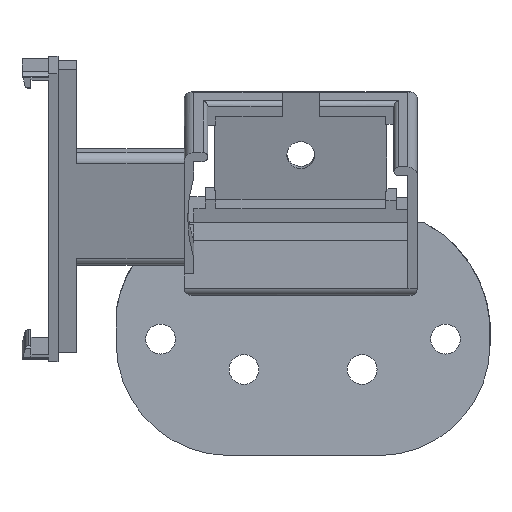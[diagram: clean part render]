
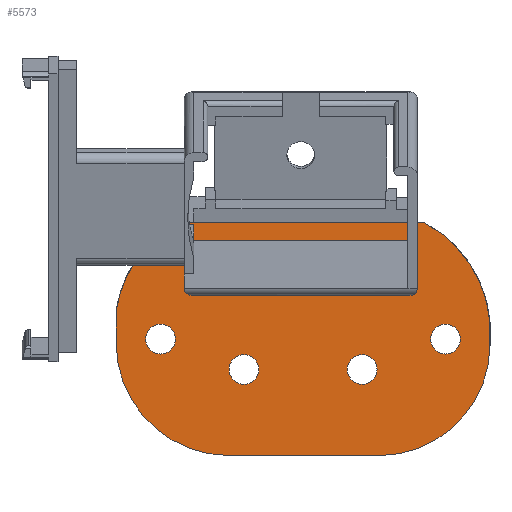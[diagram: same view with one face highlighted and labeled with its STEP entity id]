
A CAD part, front view. The second image highlights one B-rep face of the part: STEP entity #5573.
In plain terms, the highlighted planar face has unit normal (0, -1, 0).
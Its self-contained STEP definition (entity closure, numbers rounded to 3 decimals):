
#4642=CARTESIAN_POINT('',(-49.487,11.512,16.176));
#4643=DIRECTION('',(0.,1.,0.));
#4644=DIRECTION('',(0.,0.,1.));
#4645=AXIS2_PLACEMENT_3D('',#4642,#4643,#4644);
#4646=ELLIPSE('',#4645,2.071,2.);
#4647=CARTESIAN_POINT('',(-47.487,11.512,16.176));
#4648=VERTEX_POINT('',#4647);
#4649=CARTESIAN_POINT('',(-49.487,11.512,14.105));
#4650=VERTEX_POINT('',#4649);
#4651=EDGE_CURVE('',#4648,#4650,#4646,.T.);
#4683=CARTESIAN_POINT('',(-47.487,11.512,-30.));
#4684=DIRECTION('',(0.,0.,1.));
#4685=VECTOR('',#4684,1.);
#4686=LINE('',#4683,#4685);
#4687=CARTESIAN_POINT('',(-47.487,11.512,20.));
#4688=VERTEX_POINT('',#4687);
#4689=EDGE_CURVE('',#4648,#4688,#4686,.T.);
#4725=CARTESIAN_POINT('',(-112.164,11.512,20.));
#4726=DIRECTION('',(-1.,0.,0.));
#4727=VECTOR('',#4726,1.);
#4728=LINE('',#4725,#4727);
#4729=CARTESIAN_POINT('',(-45.864,11.512,20.));
#4730=VERTEX_POINT('',#4729);
#4731=EDGE_CURVE('',#4730,#4688,#4728,.T.);
#4749=CARTESIAN_POINT('',(-58.69,11.512,-3.667));
#4750=DIRECTION('',(0.,1.,0.));
#4751=DIRECTION('',(0.,0.,-1.));
#4752=AXIS2_PLACEMENT_3D('',#4749,#4750,#4751);
#4753=CIRCLE('',#4752,26.919);
#4754=CARTESIAN_POINT('',(-31.864,11.512,-1.435));
#4755=VERTEX_POINT('',#4754);
#4756=EDGE_CURVE('',#4730,#4755,#4753,.T.);
#4773=CARTESIAN_POINT('',(-31.864,11.512,-30.));
#4774=DIRECTION('',(0.,0.,1.));
#4775=VECTOR('',#4774,1.);
#4776=LINE('',#4773,#4775);
#4777=CARTESIAN_POINT('',(-31.864,11.512,-6.412));
#4778=VERTEX_POINT('',#4777);
#4779=EDGE_CURVE('',#4778,#4755,#4776,.T.);
#4798=CARTESIAN_POINT('',(-55.708,11.512,-6.155));
#4799=DIRECTION('',(0.,1.,0.));
#4800=DIRECTION('',(0.,0.,-1.));
#4801=AXIS2_PLACEMENT_3D('',#4798,#4799,#4800);
#4802=CIRCLE('',#4801,23.846);
#4803=CARTESIAN_POINT('',(-55.452,11.512,-30.));
#4804=VERTEX_POINT('',#4803);
#4805=EDGE_CURVE('',#4778,#4804,#4802,.T.);
#4823=CARTESIAN_POINT('',(-112.164,11.512,-30.));
#4824=DIRECTION('',(-1.,0.,0.));
#4825=VECTOR('',#4824,1.);
#4826=LINE('',#4823,#4825);
#4827=CARTESIAN_POINT('',(-88.319,11.512,-30.));
#4828=VERTEX_POINT('',#4827);
#4829=EDGE_CURVE('',#4804,#4828,#4826,.T.);
#4847=CARTESIAN_POINT('',(-87.885,11.512,-5.721));
#4848=DIRECTION('',(0.,1.,0.));
#4849=DIRECTION('',(0.,0.,-1.));
#4850=AXIS2_PLACEMENT_3D('',#4847,#4848,#4849);
#4851=CIRCLE('',#4850,24.282);
#4852=CARTESIAN_POINT('',(-112.164,11.512,-6.155));
#4853=VERTEX_POINT('',#4852);
#4854=EDGE_CURVE('',#4828,#4853,#4851,.T.);
#4871=CARTESIAN_POINT('',(-112.164,11.512,-30.));
#4872=DIRECTION('',(0.,0.,1.));
#4873=VECTOR('',#4872,1.);
#4874=LINE('',#4871,#4873);
#4875=CARTESIAN_POINT('',(-112.164,11.512,0.913));
#4876=VERTEX_POINT('',#4875);
#4877=EDGE_CURVE('',#4853,#4876,#4874,.T.);
#4895=CARTESIAN_POINT('',(-86.517,11.512,-2.621));
#4896=DIRECTION('',(0.,1.,0.));
#4897=DIRECTION('',(0.,0.,-1.));
#4898=AXIS2_PLACEMENT_3D('',#4895,#4896,#4897);
#4899=CIRCLE('',#4898,25.889);
#4900=CARTESIAN_POINT('',(-99.107,11.512,20.));
#4901=VERTEX_POINT('',#4900);
#4902=EDGE_CURVE('',#4876,#4901,#4899,.T.);
#4920=CARTESIAN_POINT('',(-112.164,11.512,20.));
#4921=DIRECTION('',(-1.,0.,0.));
#4922=VECTOR('',#4921,1.);
#4923=LINE('',#4920,#4922);
#4924=CARTESIAN_POINT('',(-49.487,11.512,20.));
#4925=VERTEX_POINT('',#4924);
#4926=EDGE_CURVE('',#4925,#4901,#4923,.T.);
#4943=CARTESIAN_POINT('',(-84.714,11.512,-11.52));
#4944=DIRECTION('',(0.,-1.,0.));
#4945=DIRECTION('',(0.,0.,1.));
#4946=AXIS2_PLACEMENT_3D('',#4943,#4944,#4945);
#4947=CIRCLE('',#4946,3.2);
#4948=CARTESIAN_POINT('',(-84.714,11.512,-8.32));
#4949=VERTEX_POINT('',#4948);
#4950=EDGE_CURVE('',#4949,#4949,#4947,.T.);
#4963=CARTESIAN_POINT('',(-59.314,11.512,-11.52));
#4964=DIRECTION('',(0.,-1.,0.));
#4965=DIRECTION('',(0.,0.,1.));
#4966=AXIS2_PLACEMENT_3D('',#4963,#4964,#4965);
#4967=CIRCLE('',#4966,3.2);
#4968=CARTESIAN_POINT('',(-59.314,11.512,-8.32));
#4969=VERTEX_POINT('',#4968);
#4970=EDGE_CURVE('',#4969,#4969,#4967,.T.);
#4983=CARTESIAN_POINT('',(-102.614,11.512,-5.));
#4984=DIRECTION('',(0.,-1.,0.));
#4985=DIRECTION('',(0.,0.,1.));
#4986=AXIS2_PLACEMENT_3D('',#4983,#4984,#4985);
#4987=CIRCLE('',#4986,3.2);
#4988=CARTESIAN_POINT('',(-102.614,11.512,-1.8));
#4989=VERTEX_POINT('',#4988);
#4990=EDGE_CURVE('',#4989,#4989,#4987,.T.);
#5003=CARTESIAN_POINT('',(-41.414,11.512,-5.));
#5004=DIRECTION('',(0.,-1.,0.));
#5005=DIRECTION('',(0.,0.,1.));
#5006=AXIS2_PLACEMENT_3D('',#5003,#5004,#5005);
#5007=CIRCLE('',#5006,3.2);
#5008=CARTESIAN_POINT('',(-41.414,11.512,-1.8));
#5009=VERTEX_POINT('',#5008);
#5010=EDGE_CURVE('',#5009,#5009,#5007,.T.);
#5024=CARTESIAN_POINT('',(-49.487,11.512,-30.));
#5025=DIRECTION('',(0.,0.,-1.));
#5026=VECTOR('',#5025,1.);
#5027=LINE('',#5024,#5026);
#5028=CARTESIAN_POINT('',(-49.487,11.512,16.176));
#5029=VERTEX_POINT('',#5028);
#5030=EDGE_CURVE('',#4925,#5029,#5027,.T.);
#5403=CARTESIAN_POINT('',(-95.487,11.512,14.105));
#5404=VERTEX_POINT('',#5403);
#5407=CARTESIAN_POINT('',(-112.164,11.512,14.105));
#5408=DIRECTION('',(1.,0.,0.));
#5409=VECTOR('',#5408,1.);
#5410=LINE('',#5407,#5409);
#5411=EDGE_CURVE('',#5404,#4650,#5410,.T.);
#5502=CARTESIAN_POINT('',(-112.164,11.512,-30.));
#5503=DIRECTION('',(0.,1.,0.));
#5504=DIRECTION('',(0.,0.,-1.));
#5505=AXIS2_PLACEMENT_3D('',#5502,#5503,#5504);
#5506=PLANE('',#5505);
#5507=ORIENTED_EDGE('',*,*,#5010,.F.);
#5508=EDGE_LOOP('',(#5507));
#5509=ORIENTED_EDGE('',*,*,#4990,.F.);
#5510=EDGE_LOOP('',(#5509));
#5511=ORIENTED_EDGE('',*,*,#4970,.F.);
#5512=EDGE_LOOP('',(#5511));
#5513=ORIENTED_EDGE('',*,*,#4950,.F.);
#5514=EDGE_LOOP('',(#5513));
#5515=ORIENTED_EDGE('',*,*,#5030,.F.);
#5516=ORIENTED_EDGE('',*,*,#4926,.T.);
#5517=ORIENTED_EDGE('',*,*,#4902,.F.);
#5518=ORIENTED_EDGE('',*,*,#4877,.F.);
#5519=ORIENTED_EDGE('',*,*,#4854,.F.);
#5520=ORIENTED_EDGE('',*,*,#4829,.F.);
#5521=ORIENTED_EDGE('',*,*,#4805,.F.);
#5522=ORIENTED_EDGE('',*,*,#4779,.T.);
#5523=ORIENTED_EDGE('',*,*,#4756,.F.);
#5524=ORIENTED_EDGE('',*,*,#4731,.T.);
#5525=ORIENTED_EDGE('',*,*,#4689,.F.);
#5526=ORIENTED_EDGE('',*,*,#4651,.T.);
#5527=ORIENTED_EDGE('',*,*,#5411,.F.);
#5528=CARTESIAN_POINT('',(-95.487,11.512,16.176));
#5529=DIRECTION('',(0.,1.,0.));
#5530=DIRECTION('',(0.,0.,1.));
#5531=AXIS2_PLACEMENT_3D('',#5528,#5529,#5530);
#5532=ELLIPSE('',#5531,2.071,2.);
#5533=CARTESIAN_POINT('',(-97.487,11.512,16.176));
#5534=VERTEX_POINT('',#5533);
#5535=EDGE_CURVE('',#5404,#5534,#5532,.T.);
#5536=ORIENTED_EDGE('',*,*,#5535,.T.);
#5537=CARTESIAN_POINT('',(-97.487,11.512,-30.));
#5538=DIRECTION('',(0.,0.,-1.));
#5539=VECTOR('',#5538,1.);
#5540=LINE('',#5537,#5539);
#5541=CARTESIAN_POINT('',(-97.487,11.512,19.54));
#5542=VERTEX_POINT('',#5541);
#5543=EDGE_CURVE('',#5542,#5534,#5540,.T.);
#5544=ORIENTED_EDGE('',*,*,#5543,.F.);
#5545=CARTESIAN_POINT('',(-112.164,11.512,19.54));
#5546=DIRECTION('',(-1.,0.,0.));
#5547=VECTOR('',#5546,1.);
#5548=LINE('',#5545,#5547);
#5549=CARTESIAN_POINT('',(-95.487,11.512,19.54));
#5550=VERTEX_POINT('',#5549);
#5551=EDGE_CURVE('',#5550,#5542,#5548,.T.);
#5552=ORIENTED_EDGE('',*,*,#5551,.F.);
#5553=CARTESIAN_POINT('',(-95.487,11.512,-30.));
#5554=DIRECTION('',(0.,0.,1.));
#5555=VECTOR('',#5554,1.);
#5556=LINE('',#5553,#5555);
#5557=CARTESIAN_POINT('',(-95.487,11.512,16.176));
#5558=VERTEX_POINT('',#5557);
#5559=EDGE_CURVE('',#5558,#5550,#5556,.T.);
#5560=ORIENTED_EDGE('',*,*,#5559,.F.);
#5561=CARTESIAN_POINT('',(-112.164,11.512,16.176));
#5562=DIRECTION('',(-1.,0.,0.));
#5563=VECTOR('',#5562,1.);
#5564=LINE('',#5561,#5563);
#5565=EDGE_CURVE('',#5029,#5558,#5564,.T.);
#5566=ORIENTED_EDGE('',*,*,#5565,.F.);
#5567=EDGE_LOOP('',(#5515,#5516,#5517,#5518,#5519,#5520,#5521,#5522,#5523,#5524,#5525,#5526,#5527,#5536,#5544,#5552,#5560,#5566));
#5568=FACE_BOUND('',#5508,.T.);
#5569=FACE_BOUND('',#5510,.T.);
#5570=FACE_BOUND('',#5512,.T.);
#5571=FACE_BOUND('',#5514,.T.);
#5572=FACE_OUTER_BOUND('',#5567,.T.);
#5573=ADVANCED_FACE('',(#5568,#5569,#5570,#5571,#5572),#5506,.F.);
